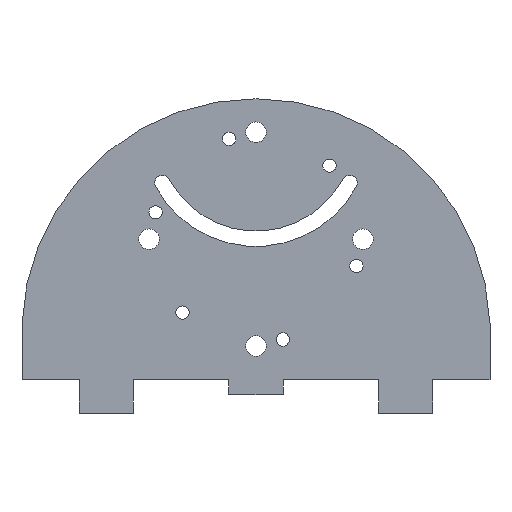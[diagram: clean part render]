
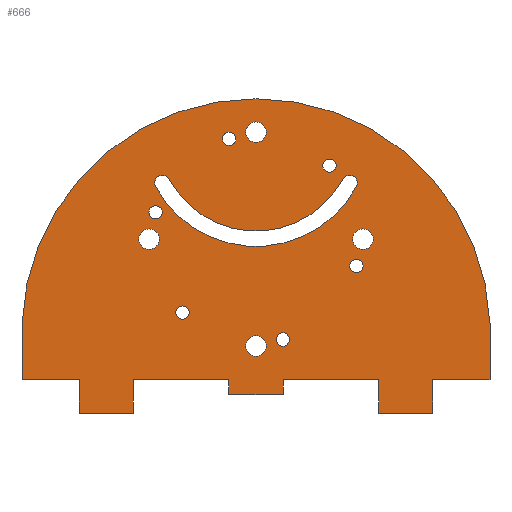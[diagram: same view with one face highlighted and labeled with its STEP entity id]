
A CAD part, front view. The second image highlights one B-rep face of the part: STEP entity #666.
In plain terms, the highlighted planar face has unit normal (0, -1, 0).
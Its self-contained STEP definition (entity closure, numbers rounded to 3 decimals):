
#26=FACE_BOUND('',#129,.T.);
#27=FACE_BOUND('',#130,.T.);
#28=FACE_BOUND('',#131,.T.);
#29=FACE_BOUND('',#132,.T.);
#30=FACE_BOUND('',#133,.T.);
#31=FACE_BOUND('',#134,.T.);
#32=FACE_BOUND('',#135,.T.);
#33=FACE_BOUND('',#136,.T.);
#34=FACE_BOUND('',#137,.T.);
#35=FACE_BOUND('',#138,.T.);
#36=FACE_BOUND('',#139,.T.);
#53=PLANE('',#751);
#85=FACE_OUTER_BOUND('',#128,.T.);
#128=EDGE_LOOP('',(#590,#591,#592,#593,#594,#595,#596,#597,#598,#599,#600,
#601,#602,#603,#604,#605));
#129=EDGE_LOOP('',(#606,#607,#608,#609));
#130=EDGE_LOOP('',(#610));
#131=EDGE_LOOP('',(#611));
#132=EDGE_LOOP('',(#612));
#133=EDGE_LOOP('',(#613));
#134=EDGE_LOOP('',(#614));
#135=EDGE_LOOP('',(#615));
#136=EDGE_LOOP('',(#616));
#137=EDGE_LOOP('',(#617));
#138=EDGE_LOOP('',(#618));
#139=EDGE_LOOP('',(#619));
#155=LINE('',#1028,#215);
#161=LINE('',#1040,#221);
#162=LINE('',#1042,#222);
#165=LINE('',#1049,#225);
#171=LINE('',#1061,#231);
#172=LINE('',#1063,#232);
#176=LINE('',#1070,#236);
#177=LINE('',#1073,#237);
#182=LINE('',#1082,#242);
#183=LINE('',#1085,#243);
#186=LINE('',#1091,#246);
#191=LINE('',#1100,#251);
#192=LINE('',#1102,#252);
#194=LINE('',#1106,#254);
#198=LINE('',#1117,#258);
#215=VECTOR('',#855,10.);
#221=VECTOR('',#863,10.);
#222=VECTOR('',#866,10.);
#225=VECTOR('',#871,10.);
#231=VECTOR('',#879,10.);
#232=VECTOR('',#882,10.);
#236=VECTOR('',#888,10.);
#237=VECTOR('',#891,10.);
#242=VECTOR('',#898,10.);
#243=VECTOR('',#901,10.);
#246=VECTOR('',#906,10.);
#251=VECTOR('',#913,10.);
#252=VECTOR('',#916,10.);
#254=VECTOR('',#920,10.);
#258=VECTOR('',#932,10.);
#261=CIRCLE('',#692,4.1);
#263=CIRCLE('',#695,60.972);
#265=CIRCLE('',#698,4.1);
#267=CIRCLE('',#701,52.772);
#269=CIRCLE('',#704,3.55);
#271=CIRCLE('',#707,3.55);
#273=CIRCLE('',#710,3.55);
#275=CIRCLE('',#713,5.5);
#277=CIRCLE('',#716,5.5);
#279=CIRCLE('',#719,5.5);
#281=CIRCLE('',#722,5.5);
#283=CIRCLE('',#725,3.55);
#285=CIRCLE('',#728,3.55);
#287=CIRCLE('',#731,3.55);
#288=CIRCLE('',#747,125.104);
#292=VERTEX_POINT('',#943);
#293=VERTEX_POINT('',#945);
#295=VERTEX_POINT('',#951);
#297=VERTEX_POINT('',#957);
#299=VERTEX_POINT('',#966);
#301=VERTEX_POINT('',#972);
#303=VERTEX_POINT('',#978);
#305=VERTEX_POINT('',#984);
#307=VERTEX_POINT('',#990);
#309=VERTEX_POINT('',#996);
#311=VERTEX_POINT('',#1002);
#313=VERTEX_POINT('',#1008);
#315=VERTEX_POINT('',#1014);
#317=VERTEX_POINT('',#1020);
#318=VERTEX_POINT('',#1024);
#320=VERTEX_POINT('',#1027);
#323=VERTEX_POINT('',#1034);
#325=VERTEX_POINT('',#1038);
#326=VERTEX_POINT('',#1045);
#328=VERTEX_POINT('',#1048);
#331=VERTEX_POINT('',#1055);
#333=VERTEX_POINT('',#1059);
#335=VERTEX_POINT('',#1068);
#336=VERTEX_POINT('',#1072);
#339=VERTEX_POINT('',#1080);
#340=VERTEX_POINT('',#1084);
#342=VERTEX_POINT('',#1090);
#345=VERTEX_POINT('',#1098);
#346=VERTEX_POINT('',#1105);
#348=VERTEX_POINT('',#1111);
#352=EDGE_CURVE('',#293,#292,#261,.T.);
#356=EDGE_CURVE('',#292,#295,#263,.T.);
#359=EDGE_CURVE('',#295,#297,#265,.T.);
#361=EDGE_CURVE('',#297,#293,#267,.T.);
#364=EDGE_CURVE('',#299,#299,#269,.T.);
#367=EDGE_CURVE('',#301,#301,#271,.T.);
#370=EDGE_CURVE('',#303,#303,#273,.T.);
#373=EDGE_CURVE('',#305,#305,#275,.T.);
#376=EDGE_CURVE('',#307,#307,#277,.T.);
#379=EDGE_CURVE('',#309,#309,#279,.T.);
#382=EDGE_CURVE('',#311,#311,#281,.T.);
#385=EDGE_CURVE('',#313,#313,#283,.T.);
#388=EDGE_CURVE('',#315,#315,#285,.T.);
#391=EDGE_CURVE('',#317,#317,#287,.T.);
#393=EDGE_CURVE('',#318,#320,#155,.T.);
#399=EDGE_CURVE('',#323,#325,#161,.T.);
#400=EDGE_CURVE('',#320,#325,#162,.T.);
#403=EDGE_CURVE('',#326,#328,#165,.T.);
#409=EDGE_CURVE('',#331,#333,#171,.T.);
#410=EDGE_CURVE('',#328,#333,#172,.T.);
#414=EDGE_CURVE('',#335,#318,#176,.T.);
#415=EDGE_CURVE('',#323,#336,#177,.T.);
#420=EDGE_CURVE('',#339,#326,#182,.T.);
#421=EDGE_CURVE('',#331,#340,#183,.T.);
#424=EDGE_CURVE('',#336,#342,#186,.T.);
#429=EDGE_CURVE('',#339,#345,#191,.T.);
#430=EDGE_CURVE('',#342,#345,#192,.T.);
#432=EDGE_CURVE('',#346,#335,#194,.T.);
#435=EDGE_CURVE('',#348,#346,#288,.T.);
#438=EDGE_CURVE('',#340,#348,#198,.T.);
#590=ORIENTED_EDGE('',*,*,#414,.F.);
#591=ORIENTED_EDGE('',*,*,#432,.F.);
#592=ORIENTED_EDGE('',*,*,#435,.F.);
#593=ORIENTED_EDGE('',*,*,#438,.F.);
#594=ORIENTED_EDGE('',*,*,#421,.F.);
#595=ORIENTED_EDGE('',*,*,#409,.T.);
#596=ORIENTED_EDGE('',*,*,#410,.F.);
#597=ORIENTED_EDGE('',*,*,#403,.F.);
#598=ORIENTED_EDGE('',*,*,#420,.F.);
#599=ORIENTED_EDGE('',*,*,#429,.T.);
#600=ORIENTED_EDGE('',*,*,#430,.F.);
#601=ORIENTED_EDGE('',*,*,#424,.F.);
#602=ORIENTED_EDGE('',*,*,#415,.F.);
#603=ORIENTED_EDGE('',*,*,#399,.T.);
#604=ORIENTED_EDGE('',*,*,#400,.F.);
#605=ORIENTED_EDGE('',*,*,#393,.F.);
#606=ORIENTED_EDGE('',*,*,#352,.T.);
#607=ORIENTED_EDGE('',*,*,#356,.T.);
#608=ORIENTED_EDGE('',*,*,#359,.T.);
#609=ORIENTED_EDGE('',*,*,#361,.T.);
#610=ORIENTED_EDGE('',*,*,#364,.T.);
#611=ORIENTED_EDGE('',*,*,#367,.T.);
#612=ORIENTED_EDGE('',*,*,#370,.T.);
#613=ORIENTED_EDGE('',*,*,#373,.T.);
#614=ORIENTED_EDGE('',*,*,#376,.T.);
#615=ORIENTED_EDGE('',*,*,#379,.T.);
#616=ORIENTED_EDGE('',*,*,#382,.T.);
#617=ORIENTED_EDGE('',*,*,#385,.T.);
#618=ORIENTED_EDGE('',*,*,#388,.T.);
#619=ORIENTED_EDGE('',*,*,#391,.T.);
#666=ADVANCED_FACE('',(#85,#26,#27,#28,#29,#30,#31,#32,#33,#34,#35,#36),
#53,.F.);
#692=AXIS2_PLACEMENT_3D('',#946,#759,#760);
#695=AXIS2_PLACEMENT_3D('',#953,#767,#768);
#698=AXIS2_PLACEMENT_3D('',#959,#774,#775);
#701=AXIS2_PLACEMENT_3D('',#962,#780,#781);
#704=AXIS2_PLACEMENT_3D('',#968,#787,#788);
#707=AXIS2_PLACEMENT_3D('',#974,#794,#795);
#710=AXIS2_PLACEMENT_3D('',#980,#801,#802);
#713=AXIS2_PLACEMENT_3D('',#986,#808,#809);
#716=AXIS2_PLACEMENT_3D('',#992,#815,#816);
#719=AXIS2_PLACEMENT_3D('',#998,#822,#823);
#722=AXIS2_PLACEMENT_3D('',#1004,#829,#830);
#725=AXIS2_PLACEMENT_3D('',#1010,#836,#837);
#728=AXIS2_PLACEMENT_3D('',#1016,#843,#844);
#731=AXIS2_PLACEMENT_3D('',#1022,#850,#851);
#747=AXIS2_PLACEMENT_3D('',#1112,#925,#926);
#751=AXIS2_PLACEMENT_3D('',#1120,#936,#937);
#759=DIRECTION('center_axis',(0.,1.,0.));
#760=DIRECTION('ref_axis',(-0.879,0.,0.477));
#767=DIRECTION('center_axis',(0.,1.,0.));
#768=DIRECTION('ref_axis',(0.879,0.,-0.477));
#774=DIRECTION('center_axis',(0.,1.,0.));
#775=DIRECTION('ref_axis',(-0.879,0.,-0.477));
#780=DIRECTION('center_axis',(0.,-1.,0.));
#781=DIRECTION('ref_axis',(-0.879,0.,0.477));
#787=DIRECTION('center_axis',(0.,1.,0.));
#788=DIRECTION('ref_axis',(1.,0.,0.));
#794=DIRECTION('center_axis',(0.,1.,0.));
#795=DIRECTION('ref_axis',(1.,0.,0.));
#801=DIRECTION('center_axis',(0.,1.,0.));
#802=DIRECTION('ref_axis',(1.,0.,0.));
#808=DIRECTION('center_axis',(0.,1.,0.));
#809=DIRECTION('ref_axis',(1.,0.,0.));
#815=DIRECTION('center_axis',(0.,1.,0.));
#816=DIRECTION('ref_axis',(1.,0.,0.));
#822=DIRECTION('center_axis',(0.,1.,0.));
#823=DIRECTION('ref_axis',(1.,0.,0.));
#829=DIRECTION('center_axis',(0.,1.,0.));
#830=DIRECTION('ref_axis',(1.,0.,0.));
#836=DIRECTION('center_axis',(0.,1.,0.));
#837=DIRECTION('ref_axis',(1.,0.,0.));
#843=DIRECTION('center_axis',(0.,1.,0.));
#844=DIRECTION('ref_axis',(1.,0.,0.));
#850=DIRECTION('center_axis',(0.,1.,0.));
#851=DIRECTION('ref_axis',(1.,0.,0.));
#855=DIRECTION('',(0.,0.,-1.));
#863=DIRECTION('',(0.,0.,-1.));
#866=DIRECTION('',(-1.,0.,0.));
#871=DIRECTION('',(0.,0.,-1.));
#879=DIRECTION('',(0.,0.,-1.));
#882=DIRECTION('',(-1.,0.,0.));
#888=DIRECTION('',(-1.,0.,0.));
#891=DIRECTION('',(-1.,0.,0.));
#898=DIRECTION('',(-1.,0.,0.));
#901=DIRECTION('',(-1.,0.,0.));
#906=DIRECTION('',(0.,0.,-1.));
#913=DIRECTION('',(0.,0.,-1.));
#916=DIRECTION('',(-1.,0.,0.));
#920=DIRECTION('',(0.,0.,-1.));
#925=DIRECTION('center_axis',(0.,1.,0.));
#926=DIRECTION('ref_axis',(-0.999,0.,0.041));
#932=DIRECTION('',(0.,0.,1.));
#936=DIRECTION('center_axis',(0.,1.,0.));
#937=DIRECTION('ref_axis',(0.,0.,1.));
#943=CARTESIAN_POINT('',(53.605,0.,28.046));
#945=CARTESIAN_POINT('',(46.395,0.,31.954));
#946=CARTESIAN_POINT('Origin',(50.,0.,30.));
#951=CARTESIAN_POINT('',(-53.605,0.,28.046));
#953=CARTESIAN_POINT('Origin',(0.,0.,57.1));
#957=CARTESIAN_POINT('',(-46.395,0.,31.954));
#959=CARTESIAN_POINT('Origin',(-50.,0.,30.));
#962=CARTESIAN_POINT('Origin',(0.,0.,57.1));
#966=CARTESIAN_POINT('',(-57.159,0.,14.364));
#968=CARTESIAN_POINT('Origin',(-53.609,0.,14.364));
#972=CARTESIAN_POINT('',(50.059,0.,-14.364));
#974=CARTESIAN_POINT('Origin',(53.609,0.,-14.364));
#978=CARTESIAN_POINT('',(-42.794,0.,-39.244));
#980=CARTESIAN_POINT('Origin',(-39.244,0.,-39.244));
#984=CARTESIAN_POINT('',(51.6,0.,0.));
#986=CARTESIAN_POINT('Origin',(57.1,0.,0.));
#990=CARTESIAN_POINT('',(-5.5,0.,57.1));
#992=CARTESIAN_POINT('Origin',(0.,0.,57.1));
#996=CARTESIAN_POINT('',(-62.6,0.,0.));
#998=CARTESIAN_POINT('Origin',(-57.1,0.,0.));
#1002=CARTESIAN_POINT('',(-5.5,0.,-57.1));
#1004=CARTESIAN_POINT('Origin',(0.,0.,-57.1));
#1008=CARTESIAN_POINT('',(10.814,0.,-53.609));
#1010=CARTESIAN_POINT('Origin',(14.364,0.,-53.609));
#1014=CARTESIAN_POINT('',(35.694,0.,39.244));
#1016=CARTESIAN_POINT('Origin',(39.244,0.,39.244));
#1020=CARTESIAN_POINT('',(-17.914,0.,53.609));
#1022=CARTESIAN_POINT('Origin',(-14.364,0.,53.609));
#1024=CARTESIAN_POINT('',(94.5,0.,-75.));
#1027=CARTESIAN_POINT('',(94.5,0.,-93.));
#1028=CARTESIAN_POINT('',(94.5,0.,-75.));
#1034=CARTESIAN_POINT('',(65.5,0.,-75.));
#1038=CARTESIAN_POINT('',(65.5,0.,-93.));
#1040=CARTESIAN_POINT('',(65.5,0.,-75.));
#1042=CARTESIAN_POINT('',(95.,0.,-93.));
#1045=CARTESIAN_POINT('',(-65.5,0.,-75.));
#1048=CARTESIAN_POINT('',(-65.5,0.,-93.));
#1049=CARTESIAN_POINT('',(-65.5,0.,-75.));
#1055=CARTESIAN_POINT('',(-94.5,0.,-75.));
#1059=CARTESIAN_POINT('',(-94.5,0.,-93.));
#1061=CARTESIAN_POINT('',(-94.5,0.,-75.));
#1063=CARTESIAN_POINT('',(-65.,0.,-93.));
#1068=CARTESIAN_POINT('',(125.,0.,-75.));
#1070=CARTESIAN_POINT('',(125.,0.,-75.));
#1072=CARTESIAN_POINT('',(14.5,0.,-75.));
#1073=CARTESIAN_POINT('',(125.,0.,-75.));
#1080=CARTESIAN_POINT('',(-14.5,0.,-75.));
#1082=CARTESIAN_POINT('',(125.,0.,-75.));
#1084=CARTESIAN_POINT('',(-125.,0.,-75.));
#1085=CARTESIAN_POINT('',(125.,0.,-75.));
#1090=CARTESIAN_POINT('',(14.5,0.,-83.));
#1091=CARTESIAN_POINT('',(14.5,0.,-75.));
#1098=CARTESIAN_POINT('',(-14.5,0.,-83.));
#1100=CARTESIAN_POINT('',(-14.5,0.,-75.));
#1102=CARTESIAN_POINT('',(14.5,0.,-83.));
#1105=CARTESIAN_POINT('',(125.,0.,-45.));
#1106=CARTESIAN_POINT('',(125.,0.,75.));
#1111=CARTESIAN_POINT('',(-125.,0.,-45.));
#1112=CARTESIAN_POINT('Origin',(0.,0.,-50.104));
#1117=CARTESIAN_POINT('',(-125.,0.,-75.));
#1120=CARTESIAN_POINT('Origin',(0.,0.,0.));
